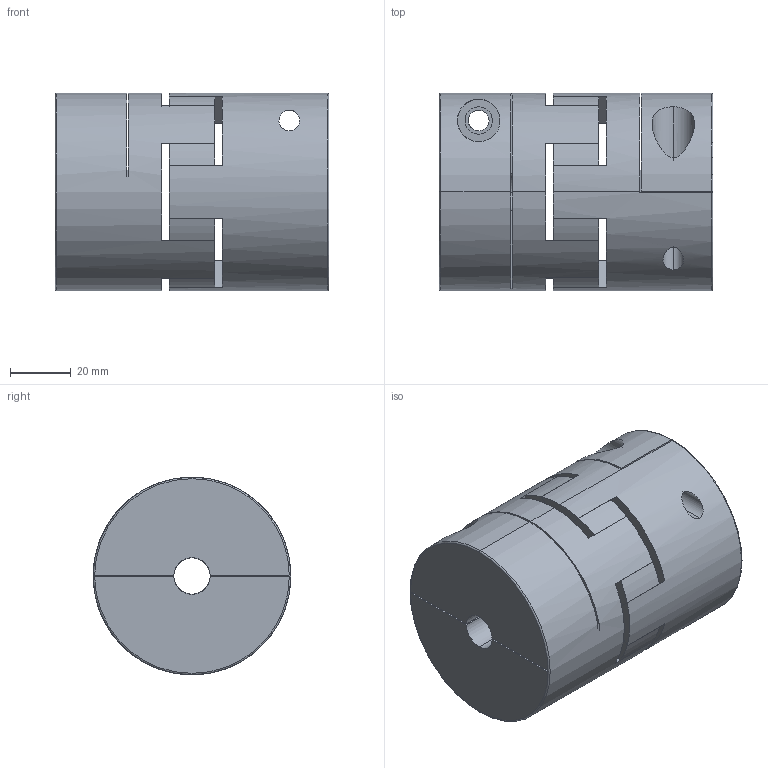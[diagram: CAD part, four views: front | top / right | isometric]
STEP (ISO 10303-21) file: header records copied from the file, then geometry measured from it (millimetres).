
FILE_DESCRIPTION (( 'STEP AP203' ), '1' );
FILE_NAME ('SQR-65C.STEP', '2009-10-01T16:07:48', ( 'USER' ), ( 'HOME' ), 'SwSTEP 2.0', 'SolidWorks 2007', '' );
FILE_SCHEMA (( 'CONFIG_CONTROL_DESIGN' ));
Length unit declared in the file: millimetre
Products named in the file (1): SQR-65C
Bounding box: 90 x 65 x 65 mm (x, y, z)
Volume: 263982.2 mm3; surface area: 58188.1 mm2
Topology: 3 solids, 3 shells, 100 faces, 280 edges, 186 vertices
Faces by surface type: plane 62, cylinder 34, torus 4
Entity records: 3651 total; most frequent: CARTESIAN_POINT 901, DIRECTION 562, ORIENTED_EDGE 560, EDGE_CURVE 280, AXIS2_PLACEMENT_3D 193, VERTEX_POINT 186, VECTOR 176, LINE 176
